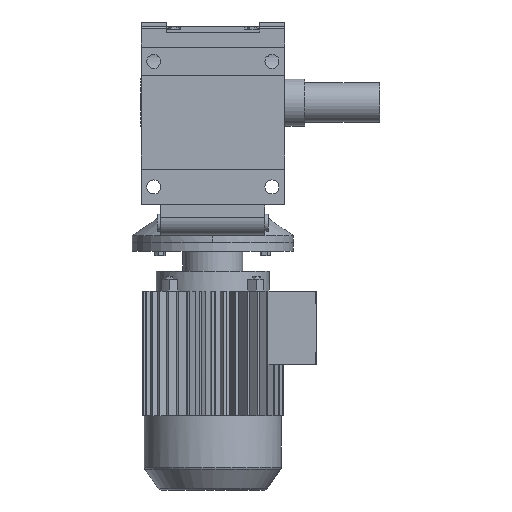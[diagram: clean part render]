
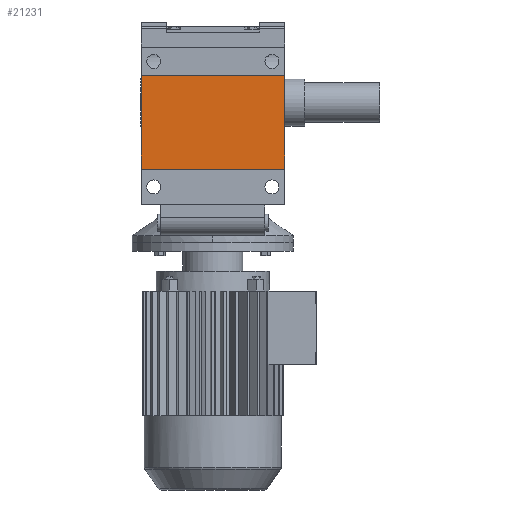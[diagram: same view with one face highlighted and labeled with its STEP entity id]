
A CAD part, front view. The second image highlights one B-rep face of the part: STEP entity #21231.
In plain terms, the highlighted planar face has unit normal (0, -1, 0).
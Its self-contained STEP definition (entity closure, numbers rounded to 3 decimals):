
#7669 = PLANE('',#7670);
#7670 = AXIS2_PLACEMENT_3D('',#7671,#7672,#7673);
#7671 = CARTESIAN_POINT('',(200.,-311.875,175.));
#7672 = DIRECTION('',(1.,0.,0.));
#7673 = DIRECTION('',(0.,0.,-1.));
#8035 = PLANE('',#8036);
#8036 = AXIS2_PLACEMENT_3D('',#8037,#8038,#8039);
#8037 = CARTESIAN_POINT('',(-200.,-311.875,175.));
#8038 = DIRECTION('',(1.,0.,0.));
#8039 = DIRECTION('',(0.,0.,-1.));
#15690 = VERTEX_POINT('',#15691);
#15691 = CARTESIAN_POINT('',(200.,-361.875,75.));
#15705 = PLANE('',#15706);
#15706 = AXIS2_PLACEMENT_3D('',#15707,#15708,#15709);
#15707 = CARTESIAN_POINT('',(200.,-361.875,75.));
#15708 = DIRECTION('',(0.,0.,1.));
#15709 = DIRECTION('',(1.,0.,0.));
#15717 = EDGE_CURVE('',#15690,#15718,#15720,.T.);
#15718 = VERTEX_POINT('',#15719);
#15719 = CARTESIAN_POINT('',(200.,-361.875,-185.));
#15720 = SURFACE_CURVE('',#15721,(#15725,#15732),.PCURVE_S1.);
#15721 = LINE('',#15722,#15723);
#15722 = CARTESIAN_POINT('',(200.,-361.875,75.));
#15723 = VECTOR('',#15724,1.);
#15724 = DIRECTION('',(0.,0.,-1.));
#15725 = PCURVE('',#7669,#15726);
#15726 = DEFINITIONAL_REPRESENTATION('',(#15727),#15731);
#15727 = LINE('',#15728,#15729);
#15728 = CARTESIAN_POINT('',(100.,-50.));
#15729 = VECTOR('',#15730,1.);
#15730 = DIRECTION('',(1.,0.));
#15731 = ( GEOMETRIC_REPRESENTATION_CONTEXT(2) 
PARAMETRIC_REPRESENTATION_CONTEXT() REPRESENTATION_CONTEXT('2D SPACE',''
  ) );
#15732 = PCURVE('',#15733,#15738);
#15733 = PLANE('',#15734);
#15734 = AXIS2_PLACEMENT_3D('',#15735,#15736,#15737);
#15735 = CARTESIAN_POINT('',(145.5,-361.875,180.));
#15736 = DIRECTION('',(0.,1.,0.));
#15737 = DIRECTION('',(0.,0.,1.));
#15738 = DEFINITIONAL_REPRESENTATION('',(#15739),#15743);
#15739 = LINE('',#15740,#15741);
#15740 = CARTESIAN_POINT('',(-105.,54.5));
#15741 = VECTOR('',#15742,1.);
#15742 = DIRECTION('',(-1.,0.));
#15743 = ( GEOMETRIC_REPRESENTATION_CONTEXT(2) 
PARAMETRIC_REPRESENTATION_CONTEXT() REPRESENTATION_CONTEXT('2D SPACE',''
  ) );
#15761 = PLANE('',#15762);
#15762 = AXIS2_PLACEMENT_3D('',#15763,#15764,#15765);
#15763 = CARTESIAN_POINT('',(200.,-361.875,-185.));
#15764 = DIRECTION('',(0.,0.,-1.));
#15765 = DIRECTION('',(-1.,0.,0.));
#16029 = VERTEX_POINT('',#16030);
#16030 = CARTESIAN_POINT('',(-200.,-361.875,-185.));
#16051 = EDGE_CURVE('',#16052,#16029,#16054,.T.);
#16052 = VERTEX_POINT('',#16053);
#16053 = CARTESIAN_POINT('',(-200.,-361.875,75.));
#16054 = SURFACE_CURVE('',#16055,(#16059,#16066),.PCURVE_S1.);
#16055 = LINE('',#16056,#16057);
#16056 = CARTESIAN_POINT('',(-200.,-361.875,75.));
#16057 = VECTOR('',#16058,1.);
#16058 = DIRECTION('',(0.,0.,-1.));
#16059 = PCURVE('',#8035,#16060);
#16060 = DEFINITIONAL_REPRESENTATION('',(#16061),#16065);
#16061 = LINE('',#16062,#16063);
#16062 = CARTESIAN_POINT('',(100.,-50.));
#16063 = VECTOR('',#16064,1.);
#16064 = DIRECTION('',(1.,0.));
#16065 = ( GEOMETRIC_REPRESENTATION_CONTEXT(2) 
PARAMETRIC_REPRESENTATION_CONTEXT() REPRESENTATION_CONTEXT('2D SPACE',''
  ) );
#16066 = PCURVE('',#15733,#16067);
#16067 = DEFINITIONAL_REPRESENTATION('',(#16068),#16072);
#16068 = LINE('',#16069,#16070);
#16069 = CARTESIAN_POINT('',(-105.,-345.5));
#16070 = VECTOR('',#16071,1.);
#16071 = DIRECTION('',(-1.,0.));
#16072 = ( GEOMETRIC_REPRESENTATION_CONTEXT(2) 
PARAMETRIC_REPRESENTATION_CONTEXT() REPRESENTATION_CONTEXT('2D SPACE',''
  ) );
#20940 = EDGE_CURVE('',#15690,#16052,#20941,.T.);
#20941 = SURFACE_CURVE('',#20942,(#20946,#20953),.PCURVE_S1.);
#20942 = LINE('',#20943,#20944);
#20943 = CARTESIAN_POINT('',(200.,-361.875,75.));
#20944 = VECTOR('',#20945,1.);
#20945 = DIRECTION('',(-1.,0.,0.));
#20946 = PCURVE('',#15705,#20947);
#20947 = DEFINITIONAL_REPRESENTATION('',(#20948),#20952);
#20948 = LINE('',#20949,#20950);
#20949 = CARTESIAN_POINT('',(0.,0.));
#20950 = VECTOR('',#20951,1.);
#20951 = DIRECTION('',(-1.,0.));
#20952 = ( GEOMETRIC_REPRESENTATION_CONTEXT(2) 
PARAMETRIC_REPRESENTATION_CONTEXT() REPRESENTATION_CONTEXT('2D SPACE',''
  ) );
#20953 = PCURVE('',#15733,#20954);
#20954 = DEFINITIONAL_REPRESENTATION('',(#20955),#20959);
#20955 = LINE('',#20956,#20957);
#20956 = CARTESIAN_POINT('',(-105.,54.5));
#20957 = VECTOR('',#20958,1.);
#20958 = DIRECTION('',(0.,-1.));
#20959 = ( GEOMETRIC_REPRESENTATION_CONTEXT(2) 
PARAMETRIC_REPRESENTATION_CONTEXT() REPRESENTATION_CONTEXT('2D SPACE',''
  ) );
#21185 = EDGE_CURVE('',#15718,#16029,#21186,.T.);
#21186 = SURFACE_CURVE('',#21187,(#21191,#21198),.PCURVE_S1.);
#21187 = LINE('',#21188,#21189);
#21188 = CARTESIAN_POINT('',(200.,-361.875,-185.));
#21189 = VECTOR('',#21190,1.);
#21190 = DIRECTION('',(-1.,0.,0.));
#21191 = PCURVE('',#15761,#21192);
#21192 = DEFINITIONAL_REPRESENTATION('',(#21193),#21197);
#21193 = LINE('',#21194,#21195);
#21194 = CARTESIAN_POINT('',(0.,0.));
#21195 = VECTOR('',#21196,1.);
#21196 = DIRECTION('',(1.,0.));
#21197 = ( GEOMETRIC_REPRESENTATION_CONTEXT(2) 
PARAMETRIC_REPRESENTATION_CONTEXT() REPRESENTATION_CONTEXT('2D SPACE',''
  ) );
#21198 = PCURVE('',#15733,#21199);
#21199 = DEFINITIONAL_REPRESENTATION('',(#21200),#21204);
#21200 = LINE('',#21201,#21202);
#21201 = CARTESIAN_POINT('',(-365.,54.5));
#21202 = VECTOR('',#21203,1.);
#21203 = DIRECTION('',(0.,-1.));
#21204 = ( GEOMETRIC_REPRESENTATION_CONTEXT(2) 
PARAMETRIC_REPRESENTATION_CONTEXT() REPRESENTATION_CONTEXT('2D SPACE',''
  ) );
#21231 = ADVANCED_FACE('',(#21232),#15733,.F.);
#21232 = FACE_BOUND('',#21233,.T.);
#21233 = EDGE_LOOP('',(#21234,#21235,#21236,#21237));
#21234 = ORIENTED_EDGE('',*,*,#20940,.T.);
#21235 = ORIENTED_EDGE('',*,*,#16051,.T.);
#21236 = ORIENTED_EDGE('',*,*,#21185,.F.);
#21237 = ORIENTED_EDGE('',*,*,#15717,.F.);
